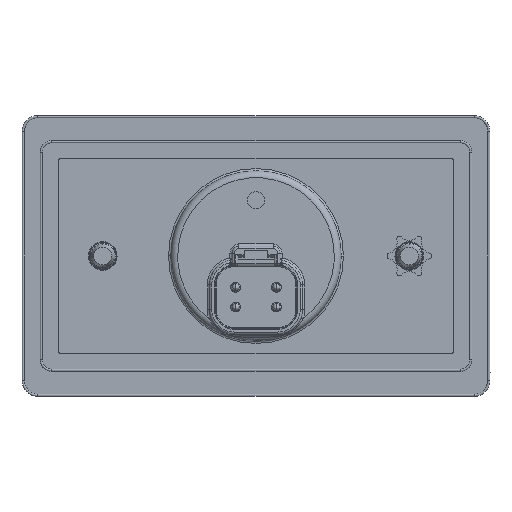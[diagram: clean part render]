
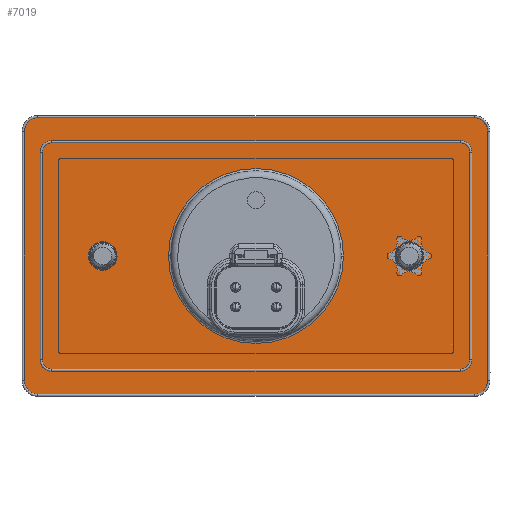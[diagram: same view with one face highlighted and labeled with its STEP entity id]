
A CAD part, front view. The second image highlights one B-rep face of the part: STEP entity #7019.
In plain terms, the highlighted planar face has unit normal (0, -1, 0) as drawn and (0, 1, 0) by its records, which use the part's own axes.
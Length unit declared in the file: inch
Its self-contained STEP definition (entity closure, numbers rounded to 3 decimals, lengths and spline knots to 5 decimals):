
#564=VECTOR('',#8878,1.);
#565=VECTOR('',#8879,1.);
#566=VECTOR('',#8880,1.);
#567=VECTOR('',#8881,1.);
#989=LINE('',#20802,#564);
#990=LINE('',#20816,#565);
#991=LINE('',#20830,#566);
#992=LINE('',#20844,#567);
#1336=B_SPLINE_CURVE_WITH_KNOTS('',3,(#20789,#20790,#20791,#20792,#20793,
#20794,#20795,#20796,#20797,#20798,#20799),.UNSPECIFIED.,.F.,.U.,(4,1,1,
1,1,1,1,1,4),(0.,0.125,0.25,0.375,0.5,0.625,0.75,0.875,1.),.UNSPECIFIED.);
#1337=B_SPLINE_CURVE_WITH_KNOTS('',3,(#20804,#20805,#20806,#20807,#20808,
#20809,#20810,#20811,#20812,#20813,#20814),.UNSPECIFIED.,.F.,.U.,(4,1,1,
1,1,1,1,1,4),(0.,0.125,0.25,0.375,0.5,0.625,0.75,0.875,1.),.UNSPECIFIED.);
#1338=B_SPLINE_CURVE_WITH_KNOTS('',3,(#20818,#20819,#20820,#20821,#20822,
#20823,#20824,#20825,#20826,#20827,#20828),.UNSPECIFIED.,.F.,.U.,(4,1,1,
1,1,1,1,1,4),(0.,0.125,0.25,0.375,0.5,0.625,0.75,0.875,1.),.UNSPECIFIED.);
#1339=B_SPLINE_CURVE_WITH_KNOTS('',3,(#20832,#20833,#20834,#20835,#20836,
#20837,#20838,#20839,#20840,#20841,#20842),.UNSPECIFIED.,.F.,.U.,(4,1,1,
1,1,1,1,1,4),(0.,0.125,0.25,0.375,0.5,0.625,0.75,0.875,1.),.UNSPECIFIED.);
#2182=VERTEX_POINT('',#20800);
#2183=VERTEX_POINT('',#20801);
#2184=VERTEX_POINT('',#20803);
#2185=VERTEX_POINT('',#20815);
#2186=VERTEX_POINT('',#20817);
#2187=VERTEX_POINT('',#20829);
#2188=VERTEX_POINT('',#20831);
#2189=VERTEX_POINT('',#20843);
#3439=EDGE_CURVE('',#2182,#2183,#1336,.T.);
#3440=EDGE_CURVE('',#2184,#2183,#989,.T.);
#3441=EDGE_CURVE('',#2184,#2185,#1337,.T.);
#3442=EDGE_CURVE('',#2186,#2185,#990,.T.);
#3443=EDGE_CURVE('',#2186,#2187,#1338,.T.);
#3444=EDGE_CURVE('',#2188,#2187,#991,.T.);
#3445=EDGE_CURVE('',#2188,#2189,#1339,.T.);
#3446=EDGE_CURVE('',#2182,#2189,#992,.T.);
#5204=ORIENTED_EDGE('',*,*,#3439,.T.);
#5205=ORIENTED_EDGE('',*,*,#3440,.F.);
#5206=ORIENTED_EDGE('',*,*,#3441,.T.);
#5207=ORIENTED_EDGE('',*,*,#3442,.F.);
#5208=ORIENTED_EDGE('',*,*,#3443,.T.);
#5209=ORIENTED_EDGE('',*,*,#3444,.F.);
#5210=ORIENTED_EDGE('',*,*,#3445,.T.);
#5211=ORIENTED_EDGE('',*,*,#3446,.F.);
#6193=EDGE_LOOP('',(#5204,#5205,#5206,#5207,#5208,#5209,#5210,#5211));
#6606=FACE_BOUND('',#6193,.T.);
#7019=ADVANCED_FACE('',(#6606),#25759,.T.);
#7626=AXIS2_PLACEMENT_3D('',#20788,#8877,$);
#8877=DIRECTION('',(0.,1.,0.));
#8878=DIRECTION('',(-1.,0.,0.));
#8879=DIRECTION('',(0.,0.,1.));
#8880=DIRECTION('',(1.,0.,0.));
#8881=DIRECTION('',(0.,0.,-1.));
#20788=CARTESIAN_POINT('',(0.,0.,0.));
#20789=CARTESIAN_POINT('',(-2.041,0.,1.09448));
#20790=CARTESIAN_POINT('',(-2.041,0.,1.10256));
#20791=CARTESIAN_POINT('',(-2.03941,0.,1.11837));
#20792=CARTESIAN_POINT('',(-2.03265,0.,1.14131));
#20793=CARTESIAN_POINT('',(-2.02157,0.,1.16255));
#20794=CARTESIAN_POINT('',(-2.0066,0.,1.18114));
#20795=CARTESIAN_POINT('',(-1.98835,0.,1.19654));
#20796=CARTESIAN_POINT('',(-1.96744,0.,1.20798));
#20797=CARTESIAN_POINT('',(-1.94456,0.,1.21502));
#20798=CARTESIAN_POINT('',(-1.92896,0.,1.21664));
#20799=CARTESIAN_POINT('',(-1.921,0.,1.21664));
#20800=CARTESIAN_POINT('',(-2.041,0.,1.09448));
#20801=CARTESIAN_POINT('',(-1.921,0.,1.21664));
#20802=CARTESIAN_POINT('',(1.921,0.,1.21664));
#20803=CARTESIAN_POINT('',(1.921,0.,1.21664));
#20804=CARTESIAN_POINT('',(1.921,0.,1.21664));
#20805=CARTESIAN_POINT('',(1.92898,0.,1.21664));
#20806=CARTESIAN_POINT('',(1.9446,0.,1.21501));
#20807=CARTESIAN_POINT('',(1.96734,0.,1.20801));
#20808=CARTESIAN_POINT('',(1.98833,0.,1.19655));
#20809=CARTESIAN_POINT('',(2.00656,0.,1.18118));
#20810=CARTESIAN_POINT('',(2.02154,0.,1.16259));
#20811=CARTESIAN_POINT('',(2.0326,0.,1.14143));
#20812=CARTESIAN_POINT('',(2.03942,0.,1.11836));
#20813=CARTESIAN_POINT('',(2.041,0.,1.10256));
#20814=CARTESIAN_POINT('',(2.041,0.,1.09448));
#20815=CARTESIAN_POINT('',(2.041,0.,1.09448));
#20816=CARTESIAN_POINT('',(2.041,0.,-1.09448));
#20817=CARTESIAN_POINT('',(2.041,0.,-1.09448));
#20818=CARTESIAN_POINT('',(2.041,0.,-1.09448));
#20819=CARTESIAN_POINT('',(2.041,0.,-1.10256));
#20820=CARTESIAN_POINT('',(2.03941,0.,-1.11837));
#20821=CARTESIAN_POINT('',(2.03265,0.,-1.14131));
#20822=CARTESIAN_POINT('',(2.02157,0.,-1.16255));
#20823=CARTESIAN_POINT('',(2.0066,0.,-1.18114));
#20824=CARTESIAN_POINT('',(1.98835,0.,-1.19654));
#20825=CARTESIAN_POINT('',(1.96744,0.,-1.20798));
#20826=CARTESIAN_POINT('',(1.94456,0.,-1.21502));
#20827=CARTESIAN_POINT('',(1.92896,0.,-1.21664));
#20828=CARTESIAN_POINT('',(1.921,0.,-1.21664));
#20829=CARTESIAN_POINT('',(1.921,0.,-1.21664));
#20830=CARTESIAN_POINT('',(-1.921,0.,-1.21664));
#20831=CARTESIAN_POINT('',(-1.921,0.,-1.21664));
#20832=CARTESIAN_POINT('',(-1.921,0.,-1.21664));
#20833=CARTESIAN_POINT('',(-1.92898,0.,-1.21664));
#20834=CARTESIAN_POINT('',(-1.9446,0.,-1.21501));
#20835=CARTESIAN_POINT('',(-1.96734,0.,-1.20801));
#20836=CARTESIAN_POINT('',(-1.98833,0.,-1.19655));
#20837=CARTESIAN_POINT('',(-2.00656,0.,-1.18118));
#20838=CARTESIAN_POINT('',(-2.02154,0.,-1.16259));
#20839=CARTESIAN_POINT('',(-2.0326,0.,-1.14143));
#20840=CARTESIAN_POINT('',(-2.03942,0.,-1.11836));
#20841=CARTESIAN_POINT('',(-2.041,0.,-1.10256));
#20842=CARTESIAN_POINT('',(-2.041,0.,-1.09448));
#20843=CARTESIAN_POINT('',(-2.041,0.,-1.09448));
#20844=CARTESIAN_POINT('',(-2.041,0.,1.09448));
#25759=PLANE('',#7626);
